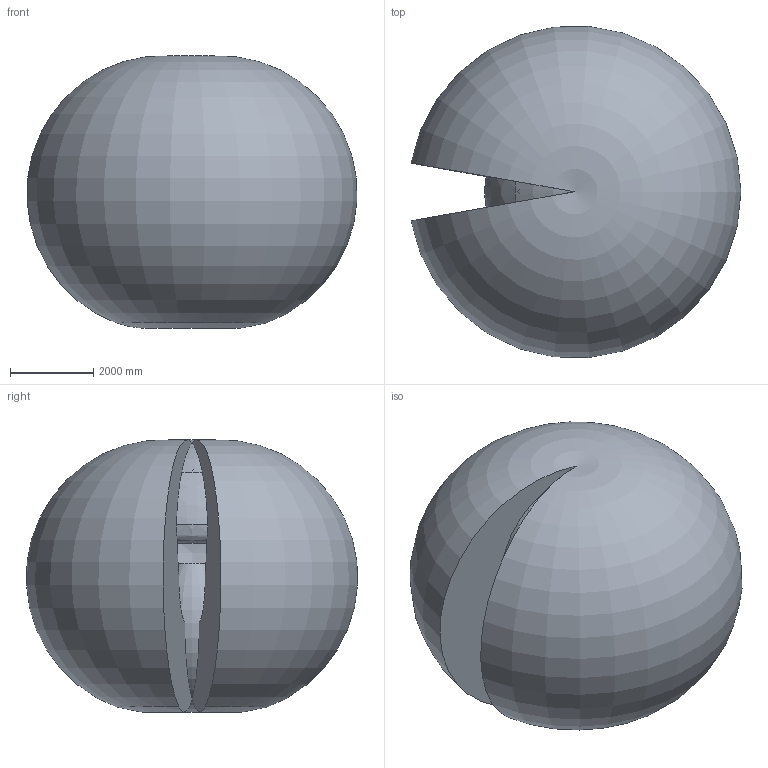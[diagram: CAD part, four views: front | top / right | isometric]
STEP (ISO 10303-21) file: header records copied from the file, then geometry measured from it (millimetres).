
FILE_DESCRIPTION (( 'STEP AP203' ), '1' );
FILE_NAME ('IRB6730S-LID_130kg-400_OC_00_Working-envelope.step', '2025-12-19T13:19:41', ( '' ), ( '' ), 'SwSTEP 2.0', 'SolidWorks 2024', '' );
FILE_SCHEMA (( 'CONFIG_CONTROL_DESIGN' ));
Length unit declared in the file: millimetre
Products named in the file (1): IRB6730S-LID_130kg-400_OC_00_Working-envelope
Bounding box: 7933.64 x 7963.95 x 6545.57 mm (x, y, z)
Volume: 203407209921.6 mm3; surface area: 267856187.8 mm2
Topology: 1 solids, 1 shells, 17 faces, 50 edges, 27 vertices
Faces by surface type: torus 8, plane 6, bspline 3
Entity records: 733 total; most frequent: CARTESIAN_POINT 253, DIRECTION 96, ORIENTED_EDGE 82, AXIS2_PLACEMENT_3D 48, EDGE_CURVE 41, CIRCLE 33, VERTEX_POINT 26, EDGE_LOOP 17
